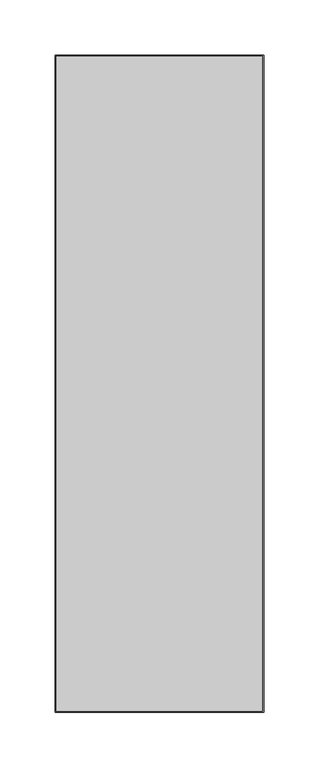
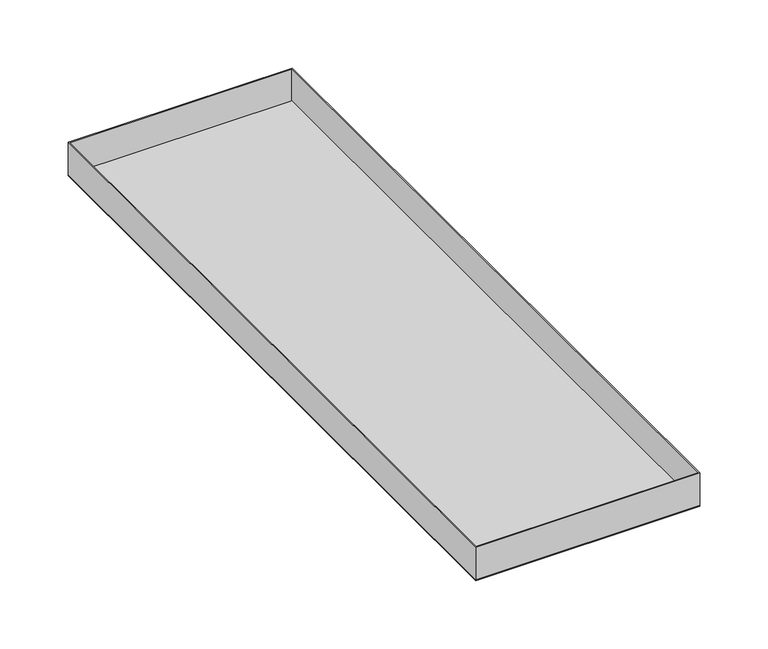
"""IFC4 building model written with IfcOpenShell, lengths in millimetres: proxy geometry, durlum_S4_panel : durlum_S4_panel_wall_length_cut."""

from ifc_helpers import new_model, si_unit, frame, origin, origin_with_axes, place, context, project, spatial, polyline, outline, extrude, source, transform, mapped, element, save


def generic_models_6a3b3989(model_context):
    return source(origin(), model_context, "Body", "SweptSolid", [
        extrude(outline(polyline([(95.0, 299.0), (95.0, -299.0), (-95.0, -299.0), (-95.0, 299.0), (95.0, 299.0)]), holes=[polyline([(94.0, 298.0), (-94.0, 298.0), (-94.0, -298.0), (94.0, -298.0), (94.0, 298.0)])]), frame((0.0, 0.0, 1.0), z_axis=(0.0, 0.0, 1.0), x_axis=(1.0, 0.0, 0.0)), (0.0, 0.0, 1.0), 29.0),
        extrude(outline(polyline([(94.0, 298.0), (94.0, -298.0), (-94.0, -298.0), (-94.0, 298.0), (94.0, 298.0)])), frame((0.0, 0.0, 1.0), z_axis=(0.0, 0.0, 1.0), x_axis=(1.0, 0.0, 0.0)), (0.0, 0.0, 1.0), 1.0),
        extrude(outline(polyline([(95.0, 299.0), (95.0, -299.0), (-95.0, -299.0), (-95.0, 299.0), (95.0, 299.0)])), origin_with_axes(), (0.0, 0.0, 1.0), 1.0),
    ])


if __name__ == "__main__":
    model = new_model("IFC4")
    model_context = context("Model", 3, world=origin())
    ifc_project = project(units=[si_unit("LENGTHUNIT", "METRE", prefix="MILLI")], contexts=[model_context])
    site = spatial("IfcSite", under=ifc_project)
    building = spatial("IfcBuilding", under=site)
    placement = place(None, origin())
    generic_models_shape = generic_models_6a3b3989(model_context)
    element("IfcBuildingElementProxy", 1, Name="durlum_S4_panel : durlum_S4_panel_wall_length_cut", ObjectType="durlum_S4_panel : durlum_S4_panel_wall_length_cut", at=placement, inside=building, context=model_context, shape_type="MappedRepresentation", body=[
        mapped(generic_models_shape, transform((0.0, 0.0, 0.0), x_axis=(1.0, 0.0, 0.0), y_axis=(0.0, 1.0, 0.0), z_axis=(0.0, 0.0, 1.0))),
    ])
    save(model, "model.ifc")
